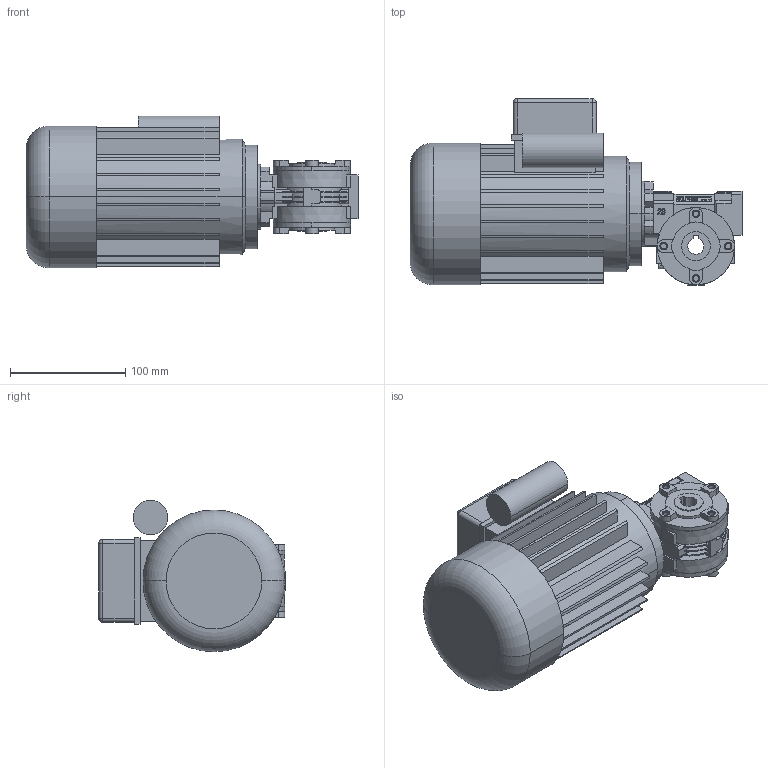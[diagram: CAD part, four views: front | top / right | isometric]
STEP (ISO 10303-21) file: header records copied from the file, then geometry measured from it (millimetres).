
FILE_DESCRIPTION (( 'STEP AP214' ), '1' );
FILE_NAME ('M63B14+RS28.STEP', '2020-04-16T15:52:53', ( '' ), ( '' ), 'SwSTEP 2.0', 'SolidWorks 2018', '' );
FILE_SCHEMA (( 'AUTOMOTIVE_DESIGN' ));
Length unit declared in the file: millimetre
Products named in the file (3): M63B14+RS28; M63B14; _F_RS_28_PC_10_63_B14-G_AC_14__none.3d
Assembly tree (2 placements, depth 2):
  M63B14+RS28
    _F_RS_28_PC_10_63_B14-G_AC_14__none.3d
    M63B14
Bounding box: 288 x 162 x 131.5 mm (x, y, z)
Volume: 2372608.7 mm3; surface area: 227438.2 mm2
Topology: 3 solids, 4 shells, 771 faces, 2054 edges, 1351 vertices
Faces by surface type: plane 529, cylinder 198, cone 22, torus 18, sphere 4
Entity records: 24845 total; most frequent: CARTESIAN_POINT 4663, DIRECTION 4140, ORIENTED_EDGE 4100, EDGE_CURVE 2050, LINE 1448, VECTOR 1448, VERTEX_POINT 1351, AXIS2_PLACEMENT_3D 1346
